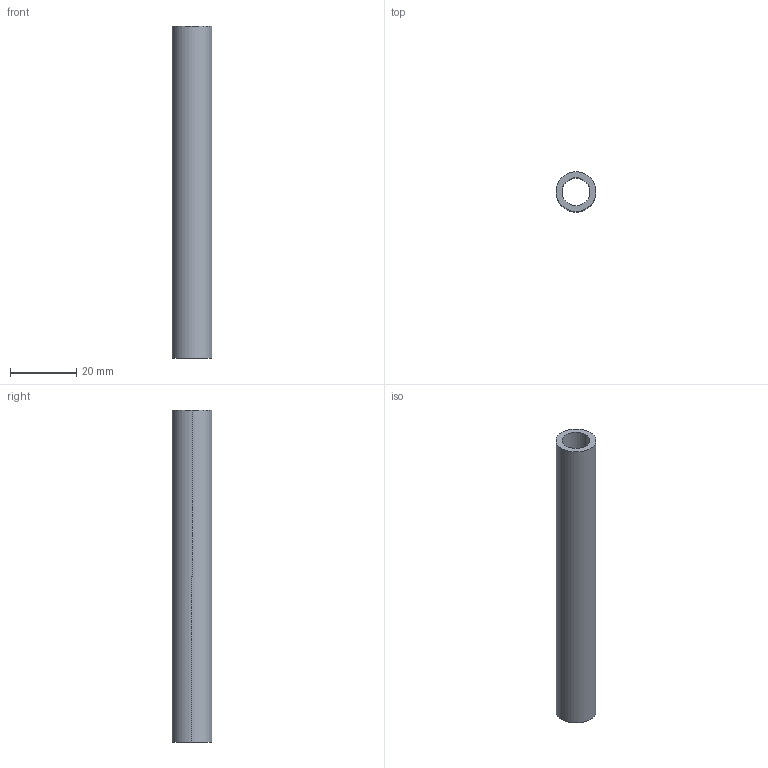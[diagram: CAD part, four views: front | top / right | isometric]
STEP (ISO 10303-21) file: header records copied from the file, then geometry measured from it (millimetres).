
FILE_DESCRIPTION(('CATIA V5 STEP Exchange','CAx-IF Rec.Pracs.--- Model Styling and Organization---1.5--- 2016-08-15','CAx-IF Rec.Pracs.---Supplemental Geometry---1.0---2011-11-01','CAx-IF Rec.Pracs.--- Composite Materials ---1.1---2010-07-15','CAx-IF Rec.Pracs.---External References---2.1---2005-01-19'),'2;1');
FILE_NAME('E:\WAT\Sprezarka\121_00_00_Tlocznik1\Tlocznik1_KPL\Tlocznik1_stp\244_9_12_100.stp','2023-08-01T08:49:44+00:00',('none'),('none'),'CATIA Version 5-6 Release 2022 SP3','CATIA V5 STEP AP214 v2','none');
FILE_SCHEMA(('AUTOMOTIVE_DESIGN { 1 0 10303 214 1 1 1 1 }'));
Length unit declared in the file: millimetre
Products named in the file (1): 244_9_12_100
Bounding box: 12 x 12 x 100 mm (x, y, z)
Volume: 5768 mm3; surface area: 6524.2 mm2
Topology: 1 solids, 1 shells, 6 faces, 12 edges, 8 vertices
Faces by surface type: cylinder 4, plane 2
Entity records: 181 total; most frequent: CARTESIAN_POINT 27, DIRECTION 24, ORIENTED_EDGE 24, AXIS2_PLACEMENT_3D 15, EDGE_CURVE 12, CIRCLE 8, EDGE_LOOP 8, VERTEX_POINT 8
